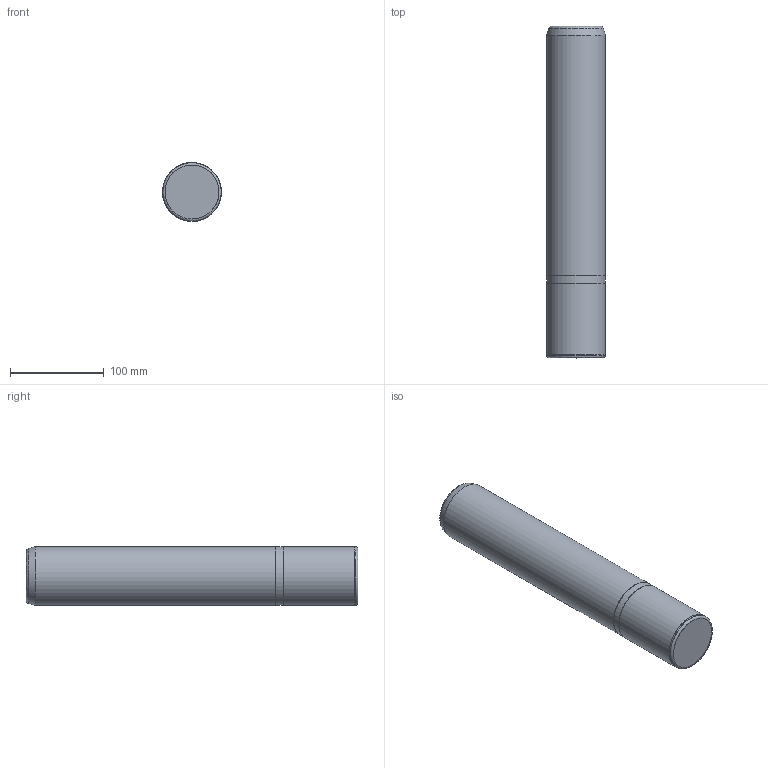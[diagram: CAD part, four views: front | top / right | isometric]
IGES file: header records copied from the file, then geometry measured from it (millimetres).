
Start section: Missler Software BP 521, 31674 Labege Cedex, France Tel   : +33 (0)5 61 00 03 00 Fax   : +33 (0)5 61 00 03 03 Email : sup.topsolid@topsolid.com
Global section: file name: D:\Cuma\26 04 2010\D15g\D15_63355.igs; native system: TopSolid v605250 Missler Software; preprocessor: IGES preprocessor v100000; date: 030225.172355; units: millimetre
Bounding box: 63 x 355 x 63 mm (x, y, z)
Surface area: 75781.6 mm2 (no closed solid volume)
Topology: 0 solids, 0 shells, 11 faces, 216 edges, 210 vertices
Faces by surface type: bspline 11
